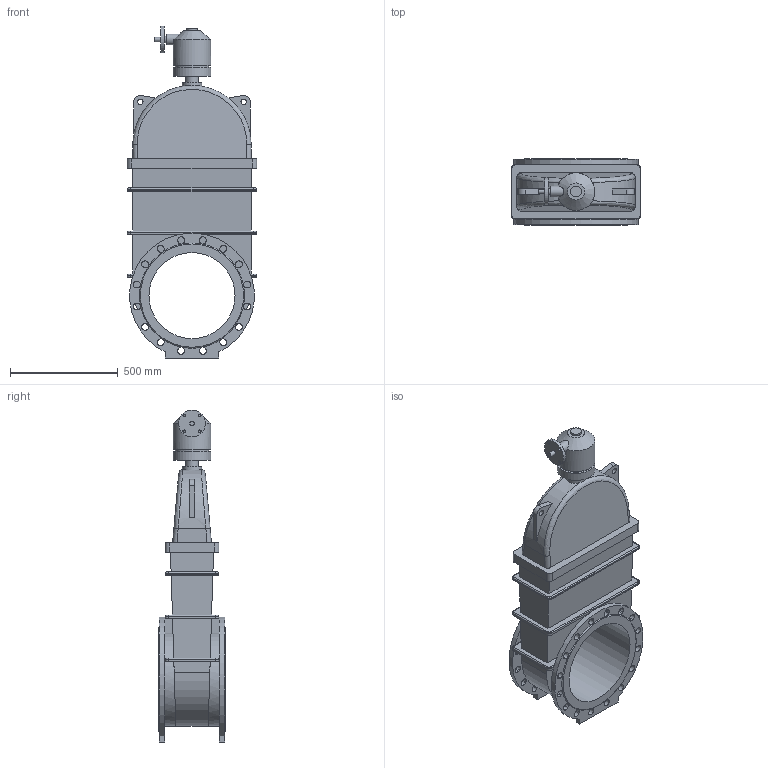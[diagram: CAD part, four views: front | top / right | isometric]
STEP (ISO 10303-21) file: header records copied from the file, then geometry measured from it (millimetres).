
FILE_DESCRIPTION(('STEP AP203'), '1');
FILE_NAME('Çàäâèæêà 47GV.Z DN400 PN10_PN16 + ðåäóêòîð ñ âõîäíûì ôëàíöåì', '', ('UNSPECIFIED'), ('UNSPECIFIED'), 'ASCON STEP Converter 1.6', 'ASCON Math Kernel', '');
FILE_SCHEMA(('CONFIG_CONTROL_DESIGN'));
Length unit declared in the file: millimetre
Bounding box: 600 x 310 x 1542.5 mm (x, y, z)
Volume: 99279928.4 mm3; surface area: 3100107 mm2
Topology: 1 solids, 1 shells, 335 faces, 965 edges, 627 vertices
Faces by surface type: plane 167, cylinder 143, bspline 22, cone 3
Full cylindrical faces by diameter (mm): 12 x4, 14 x4, 18 x4, 25 x2, 30 x1, 50 x2, 60 x1, 90 x1, 125 x1, 155 x1, 175 x2, 400 x1
Entity records: 17711 total; most frequent: CARTESIAN_POINT 6247, ORIENTED_EDGE 1876, DIRECTION 1762, EDGE_CURVE 938, AXIS2_PLACEMENT_3D 628, VERTEX_POINT 627, LINE 506, VECTOR 506
